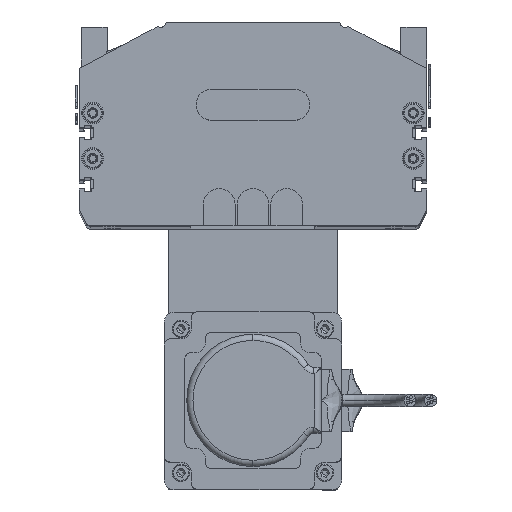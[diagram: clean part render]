
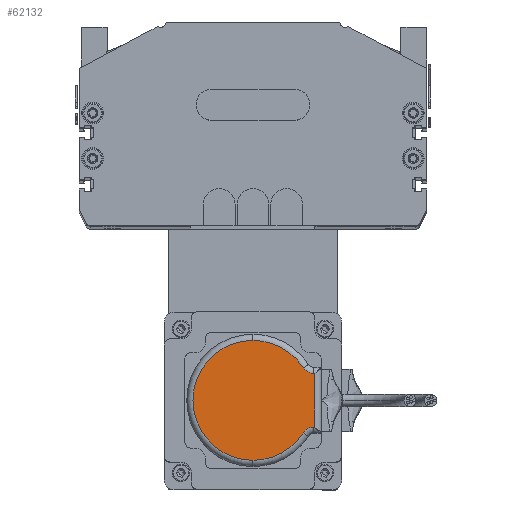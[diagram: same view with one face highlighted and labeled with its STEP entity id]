
A CAD part, top view. The second image highlights one B-rep face of the part: STEP entity #62132.
In plain terms, the highlighted planar face has unit normal (0, 0, 1).
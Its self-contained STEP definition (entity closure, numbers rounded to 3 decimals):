
#13487 = CARTESIAN_POINT ( 'NONE',  ( 17.257, 57.355, 26. ) ) ;
#13626 = CARTESIAN_POINT ( 'NONE',  ( 4., 33., 26. ) ) ;
#13687 = DIRECTION ( 'NONE',  ( 1., 0., 0. ) ) ;
#13688 = DIRECTION ( 'NONE',  ( 0., 0., 1. ) ) ;
#13690 = CARTESIAN_POINT ( 'NONE',  ( 62., 33., 26. ) ) ;
#13696 = CARTESIAN_POINT ( 'NONE',  ( 33., 33., 26. ) ) ;
#13701 = AXIS2_PLACEMENT_3D ( 'NONE', #13696, #13688, #13687 ) ;
#13717 = CIRCLE ( 'NONE', #13701, 29. ) ;
#13725 = DIRECTION ( 'NONE',  ( 1., 0., 0. ) ) ;
#13726 = DIRECTION ( 'NONE',  ( 0., 0., 1. ) ) ;
#13727 = CARTESIAN_POINT ( 'NONE',  ( 33., 33., 26. ) ) ;
#13729 = PLANE ( 'NONE',  #13732 ) ;
#13732 = AXIS2_PLACEMENT_3D ( 'NONE', #13727, #13726, #13725 ) ;
#13742 = FACE_OUTER_BOUND ( 'NONE', #62147, .T. ) ;
#13757 = CARTESIAN_POINT ( 'NONE',  ( 46., 62.394, 26. ) ) ;
#13770 = DIRECTION ( 'NONE',  ( 1., 0., 0. ) ) ;
#13771 = DIRECTION ( 'NONE',  ( 0., 0., 1. ) ) ;
#13772 = CARTESIAN_POINT ( 'NONE',  ( 33., 33., 26. ) ) ;
#13773 = AXIS2_PLACEMENT_3D ( 'NONE', #13772, #13771, #13770 ) ;
#13774 = CIRCLE ( 'NONE', #13773, 29. ) ;
#13775 = CARTESIAN_POINT ( 'NONE',  ( 20., 63., 26. ) ) ;
#13789 = DIRECTION ( 'NONE',  ( 0., 1., 0. ) ) ;
#13790 = VECTOR ( 'NONE', #13789, 1000. ) ;
#13791 = CARTESIAN_POINT ( 'NONE',  ( 46., 33., 26. ) ) ;
#13792 = LINE ( 'NONE', #13791, #13790 ) ;
#13828 = CARTESIAN_POINT ( 'NONE',  ( 48.743, 57.355, 26. ) ) ;
#13853 = CIRCLE ( 'NONE', #13916, 6. ) ;
#13909 = DIRECTION ( 'NONE',  ( 0., 0., 1. ) ) ;
#13910 = CARTESIAN_POINT ( 'NONE',  ( 33., 33., 26. ) ) ;
#13912 = AXIS2_PLACEMENT_3D ( 'NONE', #13910, #13909, #13964 ) ;
#13913 = DIRECTION ( 'NONE',  ( 1., 0., 0. ) ) ;
#13914 = DIRECTION ( 'NONE',  ( 0., 0., 1. ) ) ;
#13915 = CARTESIAN_POINT ( 'NONE',  ( 52., 62.394, 26. ) ) ;
#13916 = AXIS2_PLACEMENT_3D ( 'NONE', #13915, #13914, #13913 ) ;
#13918 = CARTESIAN_POINT ( 'NONE',  ( 20., 33., 26. ) ) ;
#13919 = LINE ( 'NONE', #13918, #13948 ) ;
#13924 = CIRCLE ( 'NONE', #13912, 29. ) ;
#13942 = DIRECTION ( 'NONE',  ( -1., 0., 0. ) ) ;
#13943 = VECTOR ( 'NONE', #13942, 1000. ) ;
#13944 = CARTESIAN_POINT ( 'NONE',  ( 17.5, 63., 26. ) ) ;
#13945 = LINE ( 'NONE', #13944, #13943 ) ;
#13947 = DIRECTION ( 'NONE',  ( 0., -1., 0. ) ) ;
#13948 = VECTOR ( 'NONE', #13947, 1000. ) ;
#13949 = DIRECTION ( 'NONE',  ( 1., 0., 0. ) ) ;
#13950 = DIRECTION ( 'NONE',  ( 0., 0., 1. ) ) ;
#13954 = AXIS2_PLACEMENT_3D ( 'NONE', #13955, #13950, #13949 ) ;
#13955 = CARTESIAN_POINT ( 'NONE',  ( 14., 62.394, 26. ) ) ;
#13959 = CARTESIAN_POINT ( 'NONE',  ( 46., 63., 26. ) ) ;
#13960 = CIRCLE ( 'NONE', #13954, 6. ) ;
#13964 = DIRECTION ( 'NONE',  ( 1., 0., 0. ) ) ;
#14083 = CARTESIAN_POINT ( 'NONE',  ( 20., 62.394, 26. ) ) ;
#62054 = VERTEX_POINT ( 'NONE', #13487 ) ;
#62095 = VERTEX_POINT ( 'NONE', #13626 ) ;
#62118 = EDGE_CURVE ( 'NONE', #62095, #62120, #13717, .T. ) ;
#62120 = VERTEX_POINT ( 'NONE', #13690 ) ;
#62132 = ADVANCED_FACE ( 'NONE', ( #13742 ), #13729, .T. ) ;
#62146 = EDGE_CURVE ( 'NONE', #62054, #62095, #13774, .T. ) ;
#62147 = EDGE_LOOP ( 'NONE', ( #62162, #62237, #62238, #62249, #62299, #62253, #62205, #62240 ) ) ;
#62162 = ORIENTED_EDGE ( 'NONE', *, *, #62250, .F. ) ;
#62171 = VERTEX_POINT ( 'NONE', #13775 ) ;
#62172 = VERTEX_POINT ( 'NONE', #13757 ) ;
#62184 = EDGE_CURVE ( 'NONE', #62172, #62247, #13792, .T. ) ;
#62205 = ORIENTED_EDGE ( 'NONE', *, *, #62252, .T. ) ;
#62213 = VERTEX_POINT ( 'NONE', #13828 ) ;
#62237 = ORIENTED_EDGE ( 'NONE', *, *, #62146, .T. ) ;
#62238 = ORIENTED_EDGE ( 'NONE', *, *, #62118, .T. ) ;
#62240 = ORIENTED_EDGE ( 'NONE', *, *, #62251, .T. ) ;
#62242 = EDGE_CURVE ( 'NONE', #62172, #62213, #13853, .T. ) ;
#62243 = EDGE_CURVE ( 'NONE', #62120, #62213, #13924, .T. ) ;
#62247 = VERTEX_POINT ( 'NONE', #13959 ) ;
#62249 = ORIENTED_EDGE ( 'NONE', *, *, #62243, .T. ) ;
#62250 = EDGE_CURVE ( 'NONE', #62054, #62300, #13960, .T. ) ;
#62251 = EDGE_CURVE ( 'NONE', #62171, #62300, #13919, .T. ) ;
#62252 = EDGE_CURVE ( 'NONE', #62247, #62171, #13945, .T. ) ;
#62253 = ORIENTED_EDGE ( 'NONE', *, *, #62184, .T. ) ;
#62299 = ORIENTED_EDGE ( 'NONE', *, *, #62242, .F. ) ;
#62300 = VERTEX_POINT ( 'NONE', #14083 ) ;
